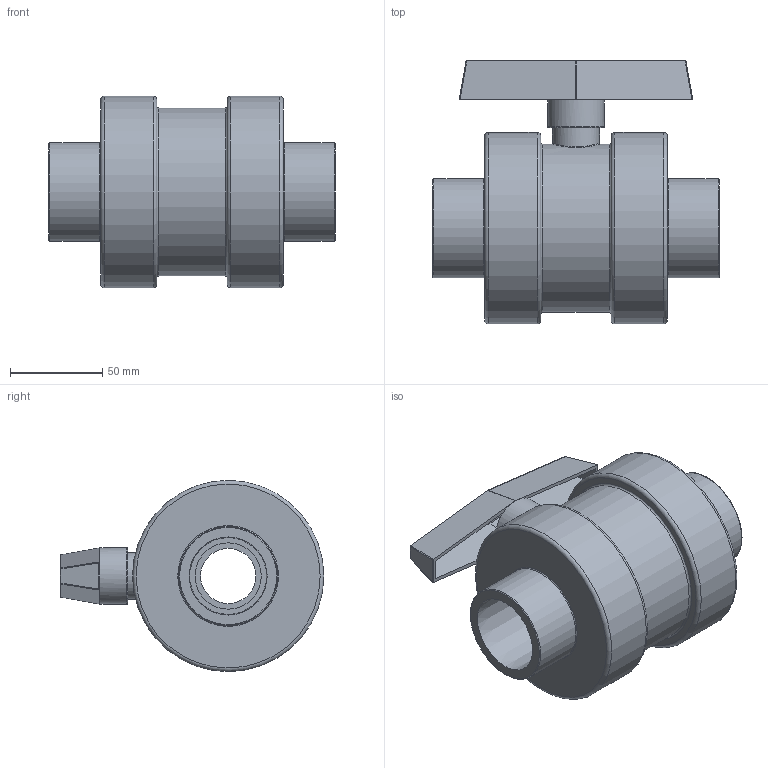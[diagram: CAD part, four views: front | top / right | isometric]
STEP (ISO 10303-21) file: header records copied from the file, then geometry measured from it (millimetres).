
FILE_DESCRIPTION (( 'STEP AP214' ), '1' );
FILE_NAME ('1-¼ Inch -101 Series Ball Valves.STEP', '2020-10-27T09:07:48', ( '' ), ( '' ), 'SwSTEP 2.0', 'SolidWorks 2019', '' );
FILE_SCHEMA (( 'AUTOMOTIVE_DESIGN' ));
Length unit declared in the file: inch
Products named in the file (1): 1-ｼ Inch -101 Series Ball Valves
Bounding box: 155.57 x 143.27 x 103.98 mm (x, y, z)
Volume: 756721.2 mm3; surface area: 95361.8 mm2
Topology: 2 solids, 2 shells, 78 faces, 169 edges, 97 vertices
Faces by surface type: plane 31, cylinder 27, torus 11, sphere 6, cone 2, bspline 1
Full cylindrical faces by diameter (mm): 20.506 x1, 25.586 x2, 29.997 x1, 30.586 x1, 36.017 x2, 53.797 x2, 91.281 x1, 103.981 x2
Entity records: 2519 total; most frequent: CARTESIAN_POINT 918, DIRECTION 338, ORIENTED_EDGE 266, AXIS2_PLACEMENT_3D 140, EDGE_CURVE 133, EDGE_LOOP 118, FACE_OUTER_BOUND 102, VERTEX_POINT 93
